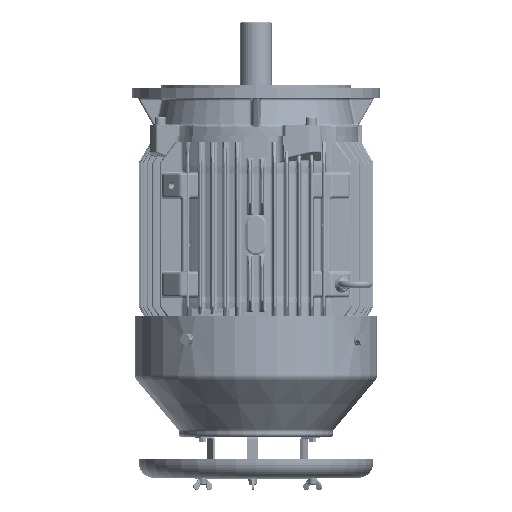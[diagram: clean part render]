
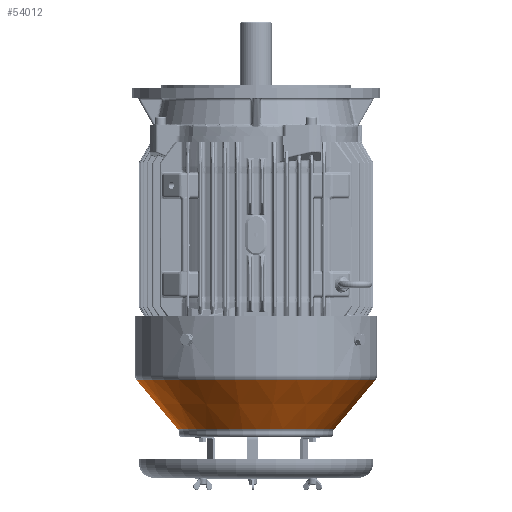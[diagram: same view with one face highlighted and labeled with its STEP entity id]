
A CAD part, front view. The second image highlights one B-rep face of the part: STEP entity #54012.
In plain terms, the highlighted conical face has half-angle 40 degrees and reference radius 94.904 mm.
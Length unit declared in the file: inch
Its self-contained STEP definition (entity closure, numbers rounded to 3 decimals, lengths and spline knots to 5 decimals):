
#6104 = DIRECTION ( 'NONE',  ( 0., 0., 1. ) ) ;
#10498 = DIRECTION ( 'NONE',  ( 0.643, 0., 0.766 ) ) ;
#12886 = EDGE_CURVE ( 'NONE', #308897, #274306, #281427, .T. ) ;
#21882 = EDGE_CURVE ( 'NONE', #117537, #274306, #77069, .T. ) ;
#21965 = DIRECTION ( 'NONE',  ( 1., 0., 0. ) ) ;
#31239 = AXIS2_PLACEMENT_3D ( 'NONE', #167291, #6104, #275359 ) ;
#38542 = CARTESIAN_POINT ( 'NONE',  ( 0., 0., -9.26473 ) ) ;
#45501 = EDGE_CURVE ( 'NONE', #55484, #308897, #56334, .T. ) ;
#54012 = ADVANCED_FACE ( 'NONE', ( #135820 ), #312464, .T. ) ;
#55484 = VERTEX_POINT ( 'NONE', #258823 ) ;
#56334 = CIRCLE ( 'NONE', #182266, 3.73637 ) ;
#77069 = CIRCLE ( 'NONE', #102137, 5.70317 ) ;
#102137 = AXIS2_PLACEMENT_3D ( 'NONE', #130127, #213621, #21965 ) ;
#116158 = DIRECTION ( 'NONE',  ( 1., 0., 0. ) ) ;
#117537 = VERTEX_POINT ( 'NONE', #138662 ) ;
#118242 = ORIENTED_EDGE ( 'NONE', *, *, #12886, .T. ) ;
#130127 = CARTESIAN_POINT ( 'NONE',  ( 0., 0., -6.92079 ) ) ;
#133003 = ORIENTED_EDGE ( 'NONE', *, *, #21882, .F. ) ;
#135820 = FACE_OUTER_BOUND ( 'NONE', #288437, .T. ) ;
#138662 = CARTESIAN_POINT ( 'NONE',  ( -5.70317, 0., -6.92079 ) ) ;
#167291 = CARTESIAN_POINT ( 'NONE',  ( 0., 0., -9.26473 ) ) ;
#179721 = CARTESIAN_POINT ( 'NONE',  ( 3.73637, 0., -9.26473 ) ) ;
#182266 = AXIS2_PLACEMENT_3D ( 'NONE', #38542, #226618, #116158 ) ;
#197587 = CARTESIAN_POINT ( 'NONE',  ( 3.73637, 0., -9.26473 ) ) ;
#199605 = ORIENTED_EDGE ( 'NONE', *, *, #45501, .T. ) ;
#213621 = DIRECTION ( 'NONE',  ( 0., 0., 1. ) ) ;
#226618 = DIRECTION ( 'NONE',  ( 0., 0., 1. ) ) ;
#241790 = DIRECTION ( 'NONE',  ( -0.643, 0., 0.766 ) ) ;
#258823 = CARTESIAN_POINT ( 'NONE',  ( -3.73637, 0., -9.26473 ) ) ;
#261855 = ORIENTED_EDGE ( 'NONE', *, *, #327214, .F. ) ;
#264557 = VECTOR ( 'NONE', #10498, 39.37008 ) ;
#274306 = VERTEX_POINT ( 'NONE', #343214 ) ;
#275359 = DIRECTION ( 'NONE',  ( 1., 0., 0. ) ) ;
#281427 = LINE ( 'NONE', #197587, #264557 ) ;
#288437 = EDGE_LOOP ( 'NONE', ( #261855, #199605, #118242, #133003 ) ) ;
#294689 = CARTESIAN_POINT ( 'NONE',  ( -3.73637, 0., -9.26473 ) ) ;
#308897 = VERTEX_POINT ( 'NONE', #179721 ) ;
#312464 = CONICAL_SURFACE ( 'NONE', #31239, 3.73637, 0.698 ) ;
#327214 = EDGE_CURVE ( 'NONE', #55484, #117537, #334442, .T. ) ;
#330038 = VECTOR ( 'NONE', #241790, 39.37008 ) ;
#334442 = LINE ( 'NONE', #294689, #330038 ) ;
#343214 = CARTESIAN_POINT ( 'NONE',  ( 5.70317, 0., -6.92079 ) ) ;
